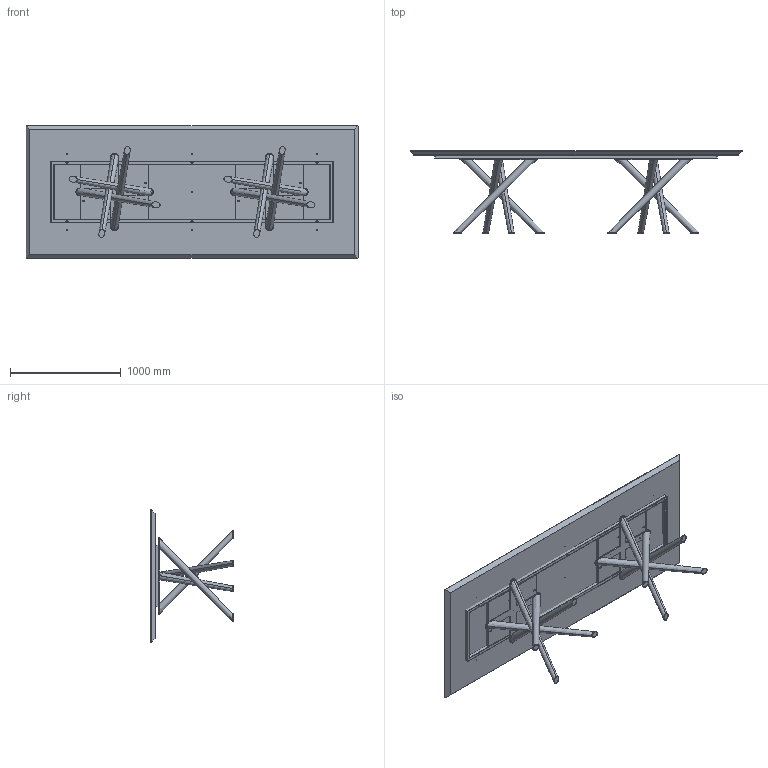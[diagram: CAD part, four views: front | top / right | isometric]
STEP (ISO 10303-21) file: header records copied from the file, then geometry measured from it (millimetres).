
FILE_DESCRIPTION (( 'STEP AP203' ), '1' );
FILE_NAME ('BA24W.STEP', '2024-08-08T05:53:46', ( '' ), ( '' ), 'SwSTEP 2.0', 'SolidWorks 2022', '' );
FILE_SCHEMA (( 'CONFIG_CONTROL_DESIGN' ));
Length unit declared in the file: millimetre
Products named in the file (9): Parte5^BAB000000-00-BALY BASE GREZZA; BA24W; TTAV03_01-06-RING TUBO TELAIO UNIVERSALE X TAVOLI 300-340cm; BAB000000-00-BALY BASE GREZZA; W2XCMXX-00-Piani Rettangolari in legno_3000 x 1200; TTAV03-06-TELAIO UNIVERSALE X TAVOLI 300-340cm; BAB000000_02-00-basamento pali conificati; BAB000000_01-00-Croce Superiore baly; TTAV03_02-06-VASSOIO IRRIGIDIMENTO TELAIO UNIVERSALE RETTANGOLARE
Assembly tree (10 placements, depth 3):
  BA24W
    W2XCMXX-00-Piani Rettangolari in legno_3000 x 1200
    TTAV03-06-TELAIO UNIVERSALE X TAVOLI 300-340cm
      TTAV03_01-06-RING TUBO TELAIO UNIVERSALE X TAVOLI 300-340cm
      TTAV03_02-06-VASSOIO IRRIGIDIMENTO TELAIO UNIVERSALE RETTANGOLARE  x2
    BAB000000-00-BALY BASE GREZZA  x2
      BAB000000_01-00-Croce Superiore baly
      BAB000000_02-00-basamento pali conificati
      Parte5^BAB000000-00-BALY BASE GREZZA
Bounding box: 3000 x 743 x 1200 mm (x, y, z)
Volume: 141052431.6 mm3; surface area: 13744690.5 mm2
Topology: 22 solids, 22 shells, 644 faces, 1584 edges, 959 vertices
Faces by surface type: plane 278, cylinder 240, cone 102, bspline 16, sphere 8
Entity records: 14852 total; most frequent: CARTESIAN_POINT 3842, DIRECTION 2111, ORIENTED_EDGE 2026, EDGE_CURVE 1013, AXIS2_PLACEMENT_3D 750, VERTEX_POINT 633, LINE 611, VECTOR 611
